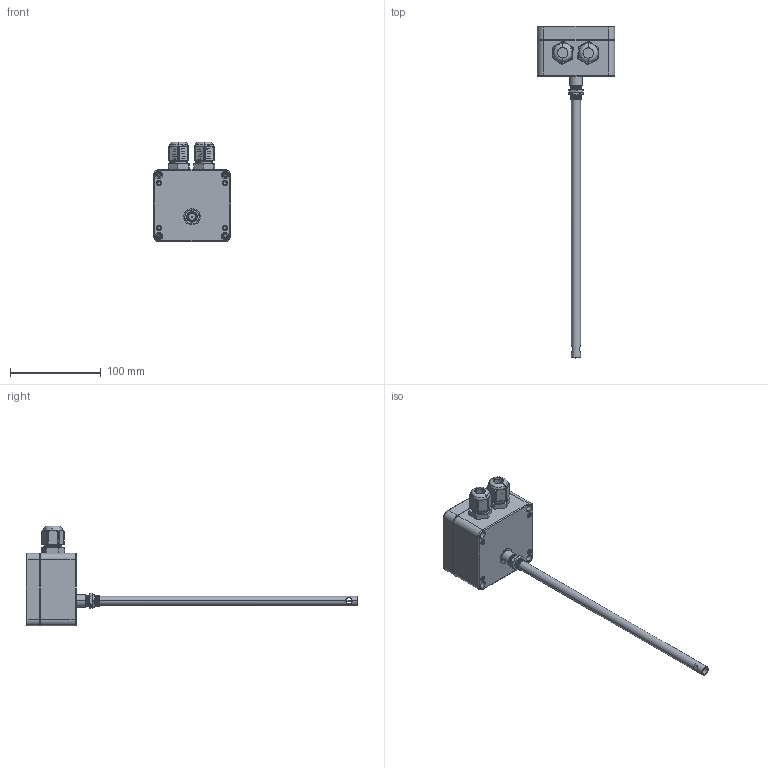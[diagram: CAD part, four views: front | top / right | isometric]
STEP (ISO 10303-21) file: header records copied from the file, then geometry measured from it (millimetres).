
FILE_DESCRIPTION (( 'STEP AP203' ), '1' );
FILE_NAME ('300 MM... Assem1.STEP', '2023-01-02T18:09:56', ( '' ), ( '' ), 'SwSTEP 2.0', 'SolidWorks 2019', '' );
FILE_SCHEMA (( 'CONFIG_CONTROL_DESIGN' ));
Length unit declared in the file: millimetre
Products named in the file (5): Part1.STEP; 300 MM... Assem1; PLUG.STEP; TUBE 300 MM LENTH - ....STEP; Part2 screw.STEP
Assembly tree (8 placements, depth 2):
  300 MM... Assem1
    Part1.STEP
    Part2 screw.STEP  x4
    PLUG.STEP  x2
    TUBE 300 MM LENTH - ....STEP
Bounding box: 85 x 365.3 x 109.79 mm (x, y, z)
Volume: 336451 mm3; surface area: 98771.1 mm2
Topology: 17 solids, 19 shells, 883 faces, 2410 edges, 1576 vertices
Faces by surface type: cylinder 496, plane 296, torus 54, bspline 29, cone 8
Entity records: 27180 total; most frequent: CARTESIAN_POINT 15686, ORIENTED_EDGE 2460, DIRECTION 2130, EDGE_CURVE 1230, VERTEX_POINT 799, AXIS2_PLACEMENT_3D 794, VECTOR 542, LINE 542
